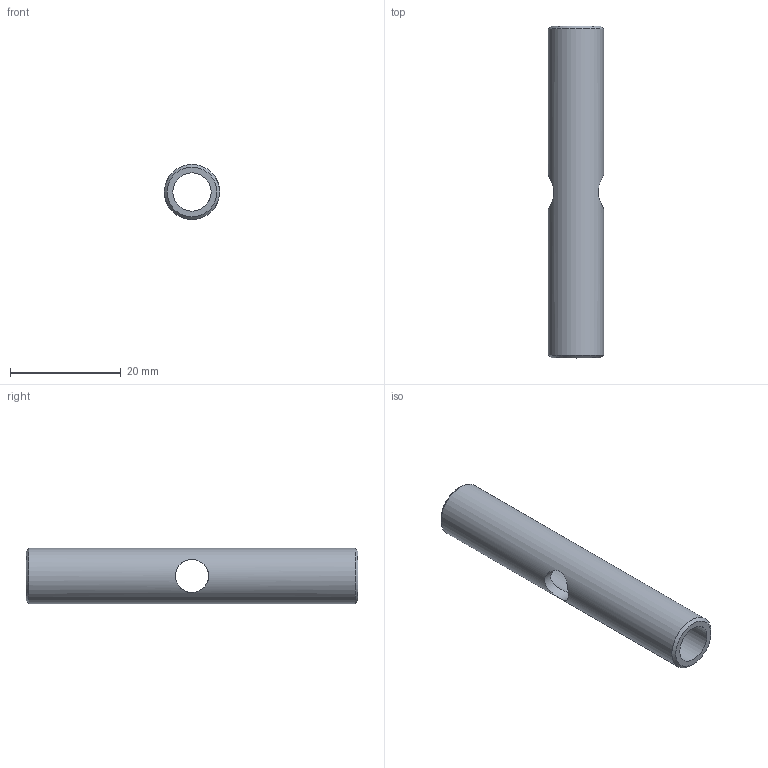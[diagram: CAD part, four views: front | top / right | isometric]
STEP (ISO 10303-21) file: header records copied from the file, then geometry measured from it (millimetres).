
FILE_DESCRIPTION( ( 'STEP AP214' ), '1' );
FILE_NAME( 'C:/Users/Segreteria/Desktop/CA.VLR.10.60.stp', '2014-07-14T10:55:20', ( ' ' ), ( ' ' ), 'XStep 1.0', ' ', ' ' );
FILE_SCHEMA( ( 'CONFIG_CONTROL_DESIGN) ( )' ) );
Length unit declared in the file: metre
Products named in the file (2): Assem1; VLR.10.60
Bounding box: 10 x 60 x 10 mm (x, y, z)
Volume: 4711 mm3; surface area: 6394.7 mm2
Topology: 2 solids, 2 shells, 16 faces, 40 edges, 26 vertices
Faces by surface type: cylinder 8, cone 4, plane 4
Full cylindrical faces by diameter (mm): 6 x4, 6.917 x2, 10 x2
Entity records: 535 total; most frequent: CARTESIAN_POINT 282, DIRECTION 32, EDGE_LOOP 20, ORIENTED_EDGE 20, AXIS2_PLACEMENT_3D 16, FACE_OUTER_BOUND 12, EDGE_CURVE 10, VERTEX_POINT 10
